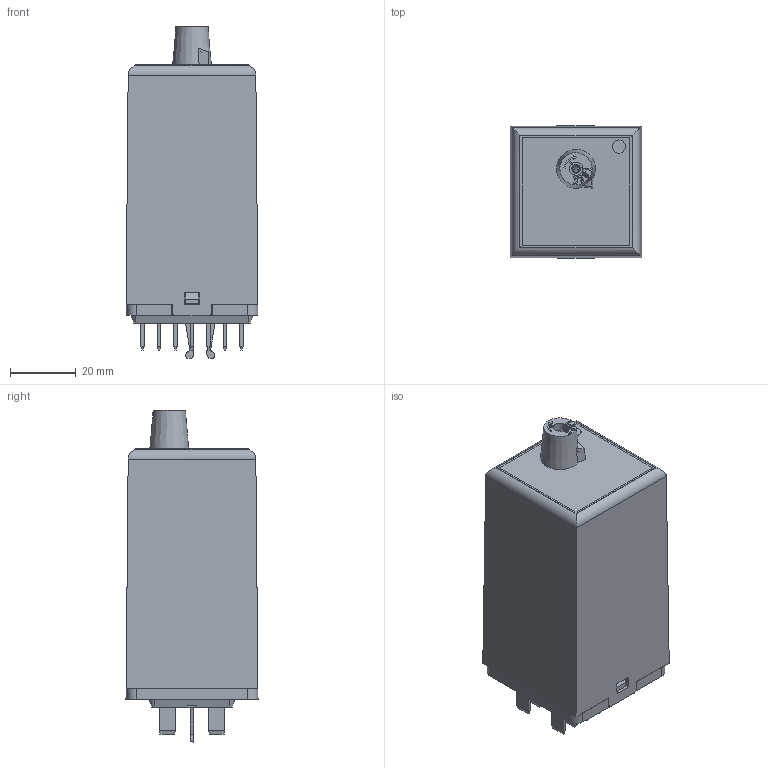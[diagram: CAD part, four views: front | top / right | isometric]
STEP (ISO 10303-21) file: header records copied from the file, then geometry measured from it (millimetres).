
FILE_DESCRIPTION((''),'2;1');
FILE_NAME('I:\TI\Bibliotheek\Inventor\Relais\TDE\TDE variable.stp','2011-03-08T13:38:27',('oey'),(''),'Autodesk Inventor 2011','Autodesk Inventor 2011','');
FILE_SCHEMA(('AUTOMOTIVE_DESIGN { 1 0 10303 214 1 1 1 1 }'));
Length unit declared in the file: millimetre
Products named in the file (1): TDE variable
Bounding box: 40 x 40.06 x 100.75 mm (x, y, z)
Volume: 30115.7 mm3; surface area: 36481 mm2
Topology: 1 solids, 1 shells, 1561 faces, 4448 edges, 2839 vertices
Faces by surface type: plane 942, cylinder 419, bspline 134, sphere 56, cone 9, torus 1
Full cylindrical faces by diameter (mm): 1.6 x14, 1.7 x1, 2.2 x1, 2.7 x4, 4 x1, 5.4 x1, 6 x1
Entity records: 53164 total; most frequent: CARTESIAN_POINT 10942, ORIENTED_EDGE 8816, DIRECTION 8014, EDGE_CURVE 4408, VECTOR 3086, LINE 3086, VERTEX_POINT 2818, AXIS2_PLACEMENT_3D 2464
